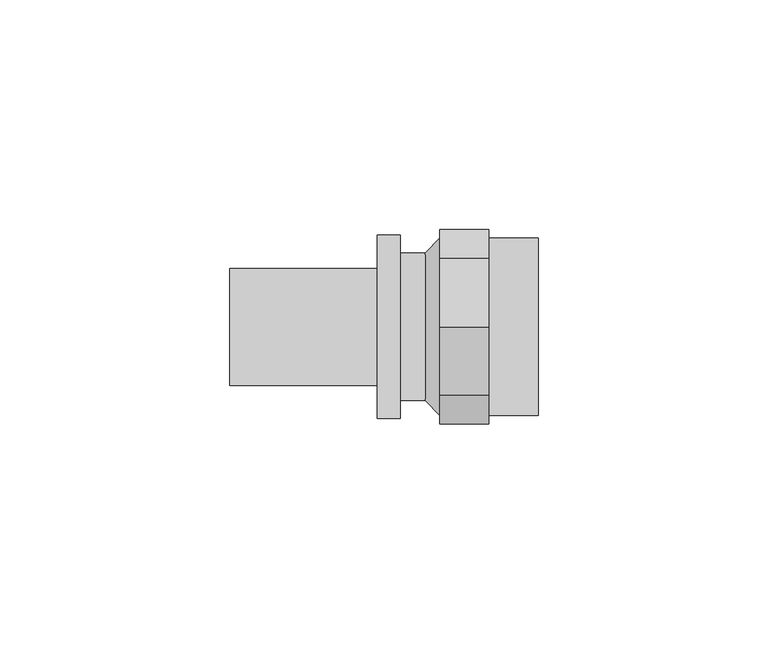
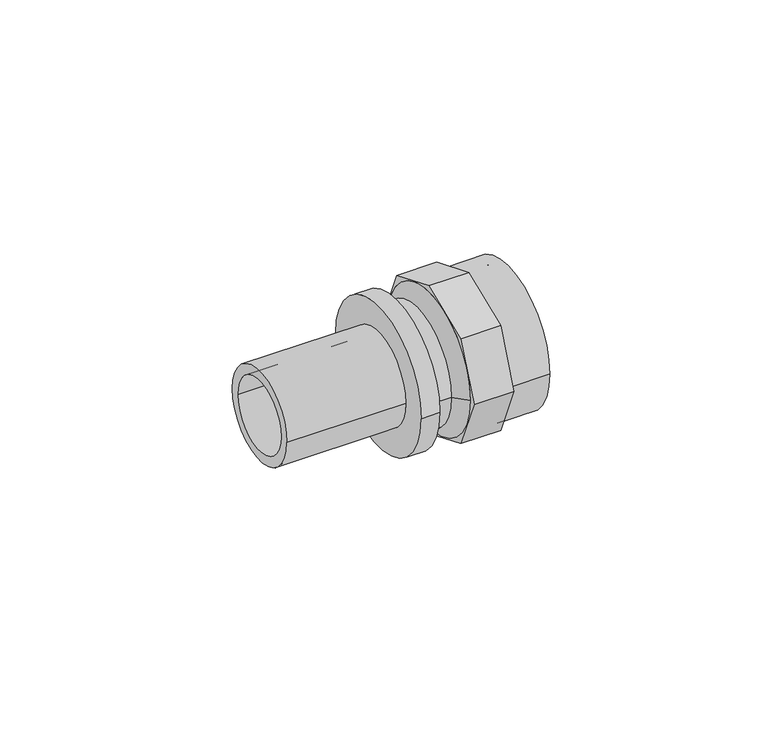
"""IFC4 building model written with IfcOpenShell, lengths in millimetres: pipe fitting geometry, REHAU_RAUTITAN_Adaptor_RX+, with internal thread : REHAU_RAUTITAN_Adaptor_RX+, with internal thread."""

from ifc_helpers import new_model, si_unit, point, frame, origin, origin_2d, place, context, project, spatial, polyline, circle_curve, trimmed, segment, composite_curve, outline, extrude, source, transform, mapped, element, save
from ifc_brep_helpers import plane_surface, cylinder_surface, revolved_surface, advanced_brep


def pipe_fitting_e0fdfad7(model_context):
    return source(origin(), model_context, "Body", "SolidModel", [
        advanced_brep(
        [(5.34, -14.9246539, 14.9246539), (5.34, -21.1066479, 0.0), (5.34, -14.9246539, -14.9246539), (5.34, 0.0, -21.1066479), (5.34, 14.9246539, -14.9246539), (5.34, 21.1066479, 0.0), (5.34, 14.9246539, 14.9246539), (5.34, 0.0, 21.1066479), (5.34, -9.5, 0.0), (5.34, 9.5, 0.0), (-5.34, -14.9246539, 14.9246539), (-5.34, 0.0, 21.1066479), (-5.34, 14.9246539, 14.9246539), (-5.34, 21.1066479, 0.0), (-5.34, 14.9246539, -14.9246539), (-5.34, 0.0, -21.1066479), (-5.34, -14.9246539, -14.9246539), (-5.34, -21.1066479, 0.0), (-5.34, -19.25, 0.0), (-5.34, 19.25, 0.0), (-5.34, 16.56, 0.0), (-5.34, -16.56, 0.0), (-5.34, -9.5, 0.0), (-5.34, 9.5, 0.0), (-8.52, 16.0, 0.0), (-8.52, -16.0, 0.0), (-13.94, -16.0, 0.0), (-13.94, 16.0, 0.0), (-8.52, 12.65, 0.0), (-8.52, -12.65, 0.0), (-50.94, 10.0, 0.0), (-50.94, -10.0, 0.0), (-13.94, -10.0, 0.0), (-13.94, 10.0, 0.0), (-18.94, 12.725, 0.0), (-18.94, -12.725, 0.0), (-50.94, -12.725, 0.0), (-50.94, 12.725, 0.0), (-13.94, 20.0, 0.0), (-13.94, -20.0, 0.0), (-18.94, -20.0, 0.0), (-18.94, 20.0, 0.0)],
        [
            (0, 1),
            (1, 2),
            (2, 3),
            (3, 4),
            (4, 5),
            (5, 6),
            (6, 7),
            (7, 0),
            (8, 9, circle_curve(frame((5.34, 0.0, 0.0), z_axis=(-1.0, 0.0, 0.0), x_axis=(0.0, 1.0, 0.0)), 9.5)),
            (9, 8, circle_curve(frame((5.34, 0.0, 0.0), z_axis=(-1.0, 0.0, 0.0), x_axis=(0.0, 1.0, 0.0)), 9.5)),
            (10, 11),
            (11, 12),
            (12, 13),
            (13, 14),
            (14, 15),
            (15, 16),
            (16, 17),
            (17, 10),
            (18, 19, circle_curve(frame((-5.34, 0.0, 0.0), z_axis=(1.0, 0.0, 0.0), x_axis=(0.0, -1.0, 0.0)), 19.25)),
            (19, 18, circle_curve(frame((-5.34, 0.0, 0.0), z_axis=(1.0, 0.0, 0.0), x_axis=(0.0, 1.0, 0.0)), 19.25)),
            (20, 21, circle_curve(frame((-5.34, 0.0, 0.0), z_axis=(-1.0, 0.0, 0.0), x_axis=(0.0, -1.0, 0.0)), 16.56)),
            (21, 20, circle_curve(frame((-5.34, 0.0, 0.0), z_axis=(-1.0, 0.0, 0.0), x_axis=(0.0, 1.0, 0.0)), 16.56)),
            (22, 23, circle_curve(frame((-5.34, 0.0, 0.0), z_axis=(1.0, 0.0, 0.0), x_axis=(0.0, 1.0, 0.0)), 9.5)),
            (23, 22, circle_curve(frame((-5.34, 0.0, 0.0), z_axis=(1.0, 0.0, 0.0), x_axis=(0.0, 1.0, 0.0)), 9.5)),
            (8, 22),
            (23, 9),
            (0, 10),
            (17, 1),
            (16, 2),
            (15, 3),
            (14, 4),
            (13, 5),
            (12, 6),
            (11, 7),
            (24, 25, circle_curve(frame((-8.52, 0.0, 0.0), z_axis=(-1.0, 0.0, 0.0), x_axis=(0.0, -1.0, 0.0)), 16.0)),
            (25, 26),
            (26, 27, circle_curve(frame((-13.94, 0.0, 0.0), z_axis=(1.0, 0.0, 0.0), x_axis=(0.0, -1.0, 0.0)), 16.0)),
            (27, 24),
            (24, 19),
            (18, 25),
            (28, 29, circle_curve(frame((-8.52, 0.0, 0.0), z_axis=(-1.0, 0.0, 0.0), x_axis=(0.0, -1.0, 0.0)), 12.65)),
            (29, 21),
            (20, 28),
            (30, 31, circle_curve(frame((-50.94, 0.0, 0.0), z_axis=(-1.0, 0.0, 0.0), x_axis=(0.0, -1.0, 0.0)), 10.0)),
            (31, 32),
            (32, 33, circle_curve(frame((-13.94, 0.0, 0.0), z_axis=(1.0, 0.0, 0.0), x_axis=(0.0, -1.0, 0.0)), 10.0)),
            (33, 30),
            (34, 35, circle_curve(frame((-18.94, 0.0, 0.0), z_axis=(-1.0, 0.0, 0.0), x_axis=(0.0, -1.0, 0.0)), 12.725)),
            (35, 36),
            (36, 37, circle_curve(frame((-50.94, 0.0, 0.0), z_axis=(1.0, 0.0, 0.0), x_axis=(0.0, -1.0, 0.0)), 12.725)),
            (37, 34),
            (38, 39, circle_curve(frame((-13.94, 0.0, 0.0), z_axis=(-1.0, 0.0, 0.0), x_axis=(0.0, -1.0, 0.0)), 20.0)),
            (39, 40),
            (40, 41, circle_curve(frame((-18.94, 0.0, 0.0), z_axis=(1.0, 0.0, 0.0), x_axis=(0.0, -1.0, 0.0)), 20.0)),
            (41, 38),
            (38, 39, circle_curve(frame((-13.94, 0.0, 0.0), z_axis=(1.0, 0.0, 0.0), x_axis=(0.0, 1.0, 0.0)), 20.0)),
            (26, 27, circle_curve(frame((-13.94, 0.0, 0.0), z_axis=(-1.0, 0.0, 0.0), x_axis=(0.0, 1.0, 0.0)), 16.0)),
            (25, 24, circle_curve(frame((-8.52, 0.0, 0.0), z_axis=(-1.0, 0.0, 0.0), x_axis=(0.0, 1.0, 0.0)), 16.0)),
            (29, 28, circle_curve(frame((-8.52, 0.0, 0.0), z_axis=(-1.0, 0.0, 0.0), x_axis=(0.0, 1.0, 0.0)), 12.65)),
            (31, 30, circle_curve(frame((-50.94, 0.0, 0.0), z_axis=(-1.0, 0.0, 0.0), x_axis=(0.0, 1.0, 0.0)), 10.0)),
            (33, 32, circle_curve(frame((-13.94, 0.0, 0.0), z_axis=(1.0, 0.0, 0.0), x_axis=(0.0, 1.0, 0.0)), 10.0)),
            (36, 37, circle_curve(frame((-50.94, 0.0, 0.0), z_axis=(-1.0, 0.0, 0.0), x_axis=(0.0, 1.0, 0.0)), 12.725)),
            (35, 34, circle_curve(frame((-18.94, 0.0, 0.0), z_axis=(-1.0, 0.0, 0.0), x_axis=(0.0, 1.0, 0.0)), 12.725)),
            (40, 41, circle_curve(frame((-18.94, 0.0, 0.0), z_axis=(-1.0, 0.0, 0.0), x_axis=(0.0, 1.0, 0.0)), 20.0)),
            (28, 33),
            (32, 29),
        ],
        [
            plane_surface(frame((5.34, 9.5, 0.0), z_axis=(1.0, 0.0, 0.0), x_axis=(0.0, 0.0, -1.0))),
            plane_surface(frame((-5.34, 9.5, 0.0), z_axis=(-1.0, 0.0, 0.0), x_axis=(0.0, 0.0, 1.0))),
            revolved_surface(polyline([(-5.34, 9.5, 0.0), (5.34, 9.5, 0.0)]), (-5.34, 0.0, 0.0), (-1.0, 0.0, 0.0)),
            plane_surface(frame((5.34, -14.9246539, 14.9246539), z_axis=(0.0, -0.9238795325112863, 0.3826834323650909), x_axis=(-1.0, 0.0, 0.0))),
            plane_surface(frame((5.34, -21.1066479, 0.0), z_axis=(0.0, -0.9238795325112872, -0.3826834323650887), x_axis=(-1.0, 0.0, 0.0))),
            plane_surface(frame((5.34, -14.9246539, -14.9246539), z_axis=(0.0, -0.3826834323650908, -0.9238795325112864), x_axis=(-1.0, 0.0, 0.0))),
            plane_surface(frame((5.34, 0.0, -21.1066479), z_axis=(0.0, 0.382683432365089, -0.9238795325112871), x_axis=(-1.0, 0.0, 0.0))),
            plane_surface(frame((5.34, 14.9246539, -14.9246539), z_axis=(0.0, 0.9238795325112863, -0.3826834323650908), x_axis=(-1.0, 0.0, 0.0))),
            plane_surface(frame((5.34, 21.1066479, 0.0), z_axis=(0.0, 0.9238795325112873, 0.38268343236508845), x_axis=(-1.0, 0.0, 0.0))),
            plane_surface(frame((5.34, 14.9246539, 14.9246539), z_axis=(0.0, 0.38268343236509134, 0.9238795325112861), x_axis=(-1.0, 0.0, 0.0))),
            plane_surface(frame((5.34, 0.0, 21.1066479), z_axis=(0.0, -0.38268343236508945, 0.923879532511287), x_axis=(-1.0, 0.0, 0.0))),
            cylinder_surface(frame((0.0, 0.0, 0.0), z_axis=(1.0, 0.0, 0.0), x_axis=(0.0, -1.0, 0.0)), 16.0),
            revolved_surface(polyline([(-8.52, -16.0, 0.0), (-5.34, -19.25, 0.0)]), (0.0, 0.0, 0.0), (1.0, 0.0, 0.0)),
            revolved_surface(polyline([(-5.34, -16.56, 0.0), (-8.52, -12.65, 0.0)]), (0.0, 0.0, 0.0), (1.0, 0.0, 0.0)),
            revolved_surface(polyline([(-13.94, -10.0, 0.0), (-50.94, -10.0, 0.0)]), (0.0, 0.0, 0.0), (1.0, 0.0, 0.0)),
            cylinder_surface(frame((0.0, 0.0, 0.0), z_axis=(1.0, 0.0, 0.0), x_axis=(0.0, -1.0, 0.0)), 12.725),
            cylinder_surface(frame((0.0, 0.0, 0.0), z_axis=(1.0, 0.0, 0.0), x_axis=(0.0, -1.0, 0.0)), 20.0),
            plane_surface(frame((-13.94, 0.0, 0.0), z_axis=(1.0, 0.0, 0.0), x_axis=(0.0, 1.0, 0.0))),
            cylinder_surface(frame((0.0, 0.0, 0.0), z_axis=(1.0, 0.0, 0.0), x_axis=(0.0, 1.0, 0.0)), 16.0),
            revolved_surface(polyline([(-8.52, 16.0, 0.0), (-5.34, 19.25, 0.0)]), (0.0, 0.0, 0.0), (1.0, 0.0, 0.0)),
            revolved_surface(polyline([(-5.34, 16.56, 0.0), (-8.52, 12.65, 0.0)]), (0.0, 0.0, 0.0), (1.0, 0.0, 0.0)),
            revolved_surface(polyline([(-13.94, 10.0, 0.0), (-50.94, 10.0, 0.0)]), (0.0, 0.0, 0.0), (1.0, 0.0, 0.0)),
            plane_surface(frame((-50.94, 0.0, 0.0), z_axis=(-1.0, 0.0, 0.0), x_axis=(0.0, 1.0, 0.0))),
            cylinder_surface(frame((0.0, 0.0, 0.0), z_axis=(1.0, 0.0, 0.0), x_axis=(0.0, 1.0, 0.0)), 12.725),
            plane_surface(frame((-18.94, 0.0, 0.0), z_axis=(-1.0, 0.0, 0.0), x_axis=(0.0, 1.0, 0.0))),
            cylinder_surface(frame((0.0, 0.0, 0.0), z_axis=(1.0, 0.0, 0.0), x_axis=(0.0, 1.0, 0.0)), 20.0),
            revolved_surface(polyline([(-8.52, -12.65, 0.0), (-13.94, -10.0, 0.0)]), (0.0, 0.0, 0.0), (1.0, 0.0, 0.0)),
            revolved_surface(polyline([(-8.52, 12.65, 0.0), (-13.94, 10.0, 0.0)]), (0.0, 0.0, 0.0), (1.0, 0.0, 0.0)),
        ],
        [
            (0, [[1, 2, 3, 4, 5, 6, 7, 8], [9, 10]]),
            (1, [[11, 12, 13, 14, 15, 16, 17, 18], [19, 20]]),
            (1, [[21, 22], [23, 24]]),
            (2, [[-9, 25, -24, 26]]),
            (2, [[-10, -26, -23, -25]]),
            (3, [[-1, 27, -18, 28]]),
            (4, [[-2, -28, -17, 29]]),
            (5, [[-3, -29, -16, 30]]),
            (6, [[-4, -30, -15, 31]]),
            (7, [[-5, -31, -14, 32]]),
            (8, [[-6, -32, -13, 33]]),
            (9, [[-7, -33, -12, 34]]),
            (10, [[-8, -34, -11, -27]]),
            (11, [[35, 36, 37, 38]]),
            (12, [[-35, 39, -19, 40]]),
            (13, [[41, 42, -21, 43]]),
            (14, [[44, 45, 46, 47]]),
            (15, [[48, 49, 50, 51]]),
            (16, [[52, 53, 54, 55]]),
            (17, [[-52, 56], [-37, 57]]),
            (18, [[-36, 58, -38, -57]]),
            (19, [[-40, -20, -39, -58]]),
            (20, [[-42, 59, -43, -22]]),
            (21, [[-45, 60, -47, 61]]),
            (22, [[-50, 62], [-44, -60]]),
            (23, [[-49, 63, -51, -62]]),
            (24, [[-54, 64], [-48, -63]]),
            (25, [[-53, -56, -55, -64]]),
            (26, [[-41, 65, -46, 66]]),
            (27, [[-59, -66, -61, -65]]),
        ],
    ),
        extrude(outline(composite_curve([segment(trimmed(circle_curve(origin_2d(), 19.25), [point((-19.25, 0.0))], [point((19.25, 0.0))], False, "CARTESIAN"), True, "CONTINUOUS"), segment(trimmed(circle_curve(origin_2d(), 19.25), [point((19.25, 0.0))], [point((-19.25, 0.0))], False, "CARTESIAN"), True, "CONTINUOUS")], self_intersect=False), holes=[composite_curve([segment(trimmed(circle_curve(origin_2d(), 16.56), [point((-16.56, 0.0))], [point((16.56, 0.0))], True, "CARTESIAN"), True, "CONTINUOUS"), segment(trimmed(circle_curve(origin_2d(), 16.56), [point((16.56, 0.0))], [point((-16.56, 0.0))], True, "CARTESIAN"), True, "CONTINUOUS")], self_intersect=False)]), frame((5.34, 0.0, 0.0), z_axis=(1.0, 0.0, 0.0), x_axis=(0.0, 1.0, 0.0)), (0.0, 0.0, 1.0), 10.72),
    ])


if __name__ == "__main__":
    model = new_model("IFC4")
    model_context = context("Model", 3, world=origin())
    ifc_project = project(units=[si_unit("LENGTHUNIT", "METRE", prefix="MILLI")], contexts=[model_context])
    site = spatial("IfcSite", under=ifc_project)
    building = spatial("IfcBuilding", under=site)
    placement = place(None, origin())
    pipe_fitting_shape = pipe_fitting_e0fdfad7(model_context)
    element("IfcPipeFitting", 1, ObjectType="REHAU_RAUTITAN_Adaptor_RX+, with internal thread : REHAU_RAUTITAN_Adaptor_RX+, with internal thread", at=placement, inside=building, context=model_context, shape_type="MappedRepresentation", body=[
        mapped(pipe_fitting_shape, transform((0.0, 0.0, 0.0), x_axis=(1.0, 0.0, 0.0), y_axis=(0.0, 1.0, 0.0), z_axis=(0.0, 0.0, 1.0))),
    ])
    save(model, "model.ifc")
